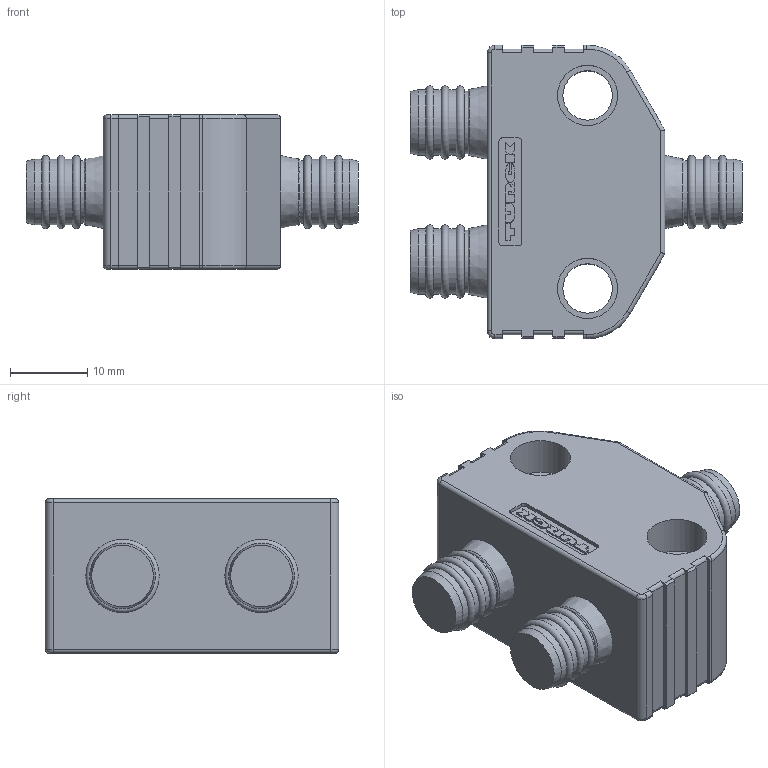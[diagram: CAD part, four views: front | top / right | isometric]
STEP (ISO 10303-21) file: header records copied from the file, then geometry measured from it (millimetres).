
FILE_DESCRIPTION(/* description */ (''),/* implementation_level */ '2;1');
FILE_NAME(/* name */ 'L:\CAD Inventor\Workspace\Catalogs\CATALOG-DEVICENET\VB2-3CABLES.stp',/* time_stamp */ '2021-07-13T07:42:34-05:00',/* author */ ('RSwans'),/* organization */ (''),/* preprocessor_version */ 'ST-DEVELOPER v16.5',/* originating_system */ 'Autodesk Inventor 2017',/* authorisation */ '');
FILE_SCHEMA (('AUTOMOTIVE_DESIGN { 1 0 10303 214 3 1 1 }'));
Length unit declared in the file: millimetre
Products named in the file (1): Part1
Bounding box: 43 x 38 x 20 mm (x, y, z)
Volume: 16175.3 mm3; surface area: 5623.6 mm2
Topology: 1 solids, 4 shells, 323 faces, 859 edges, 558 vertices
Faces by surface type: plane 242, cylinder 55, torus 16, cone 6, bspline 4
Full cylindrical faces by diameter (mm): 3 x3, 6.4 x2, 7.8 x2, 8.143 x3, 8.509 x9
Entity records: 10080 total; most frequent: CARTESIAN_POINT 1736, ORIENTED_EDGE 1644, DIRECTION 1588, EDGE_CURVE 822, LINE 696, VECTOR 696, VERTEX_POINT 558, AXIS2_PLACEMENT_3D 446
